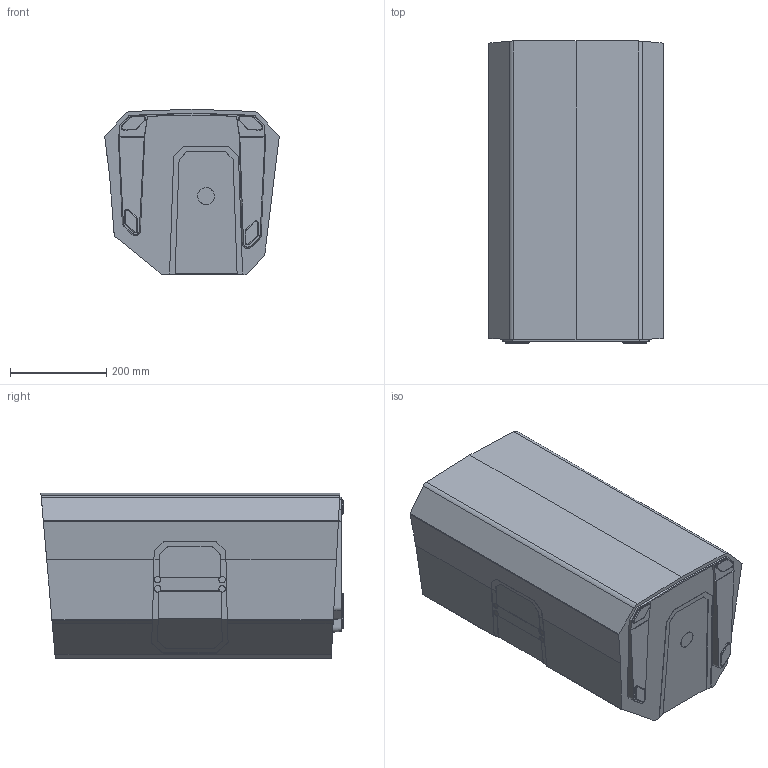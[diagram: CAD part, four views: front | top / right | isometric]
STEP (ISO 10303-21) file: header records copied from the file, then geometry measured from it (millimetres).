
FILE_DESCRIPTION (( 'STEP AP203' ), '1' );
FILE_NAME ('ELX200-12 3D CAD.STEP', '2022-03-17T06:03:04', ( '' ), ( '' ), 'SwSTEP 2.0', 'SolidWorks 2021', '' );
FILE_SCHEMA (( 'CONFIG_CONTROL_DESIGN' ));
Length unit declared in the file: millimetre
Products named in the file (1): ELX200-12 3D CAD
Bounding box: 362.57 x 628.22 x 344.02 mm (x, y, z)
Volume: 64330348.9 mm3; surface area: 971360.2 mm2
Topology: 1 solids, 1 shells, 327 faces, 912 edges, 598 vertices
Faces by surface type: plane 181, cylinder 86, bspline 40, torus 20
Entity records: 11105 total; most frequent: CARTESIAN_POINT 2997, ORIENTED_EDGE 1824, DIRECTION 1528, EDGE_CURVE 912, VERTEX_POINT 598, VECTOR 584, LINE 584, AXIS2_PLACEMENT_3D 472
